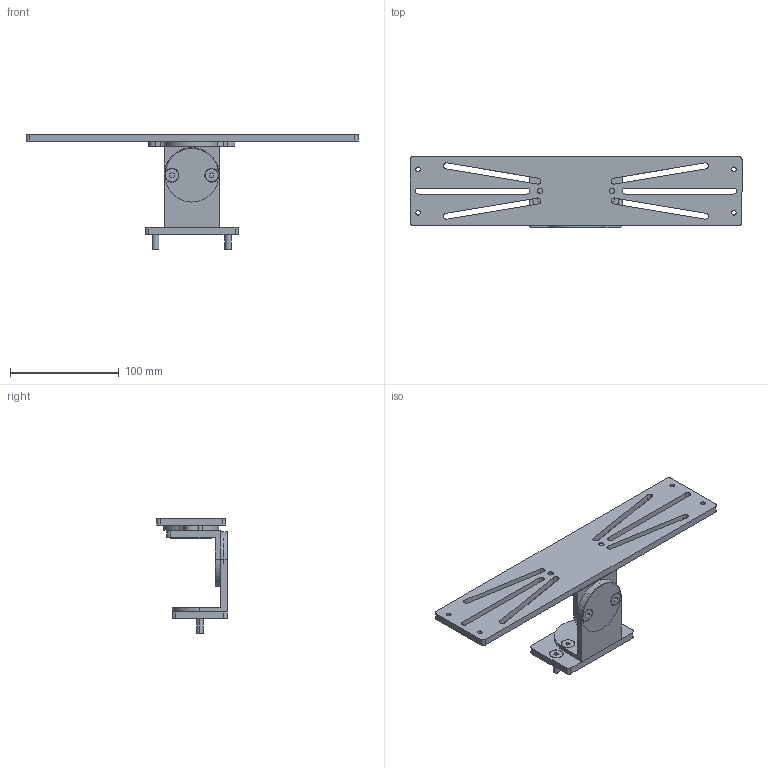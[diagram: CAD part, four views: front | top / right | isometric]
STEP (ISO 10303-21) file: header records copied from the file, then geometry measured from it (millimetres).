
FILE_DESCRIPTION (( 'STEP AP214' ), '1' );
FILE_NAME ('PB300-M5_R3.step', '2019-05-23T14:01:55', ( '' ), ( '' ), 'SwSTEP 2.0', 'SolidWorks 2019', '' );
FILE_SCHEMA (( 'AUTOMOTIVE_DESIGN' ));
Length unit declared in the file: millimetre
Products named in the file (11): 3A-31-0505-04; 3A-31-0505-01; 3A-31-0505-08; PB300-M5_R3; 3A-31-0505-02; 3A-31-0505-06; 3A-31-0505-03; 3A-31-0505-07; 3A-31-0505-05; 3A-31-0505-09; PB300_R2
Assembly tree (15 placements, depth 2):
  PB300-M5_R3
    3A-31-0505-01
    3A-31-0505-02
    3A-31-0505-03
    3A-31-0505-04
    3A-31-0505-05
    3A-31-0505-06  x5
    3A-31-0505-07  x2
    3A-31-0505-08
    3A-31-0505-09
    PB300_R2
Bounding box: 304.8 x 65.09 x 106.08 mm (x, y, z)
Volume: 191688.3 mm3; surface area: 94641.6 mm2
Topology: 15 solids, 15 shells, 321 faces, 799 edges, 522 vertices
Faces by surface type: cylinder 139, plane 120, cone 48, torus 14
Entity records: 7739 total; most frequent: DIRECTION 1361, CARTESIAN_POINT 1205, ORIENTED_EDGE 1158, EDGE_CURVE 579, AXIS2_PLACEMENT_3D 538, VERTEX_POINT 382, EDGE_LOOP 297, CIRCLE 294
